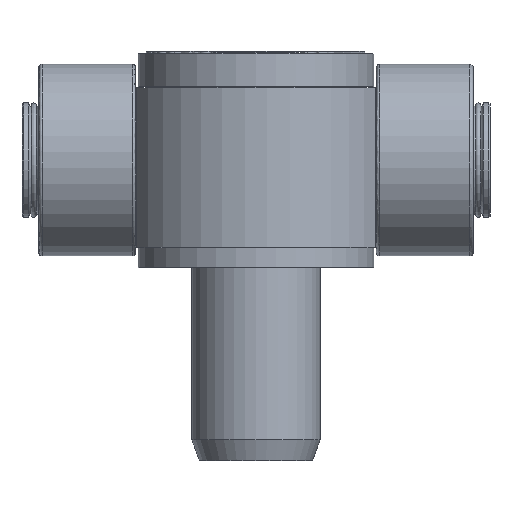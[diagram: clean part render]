
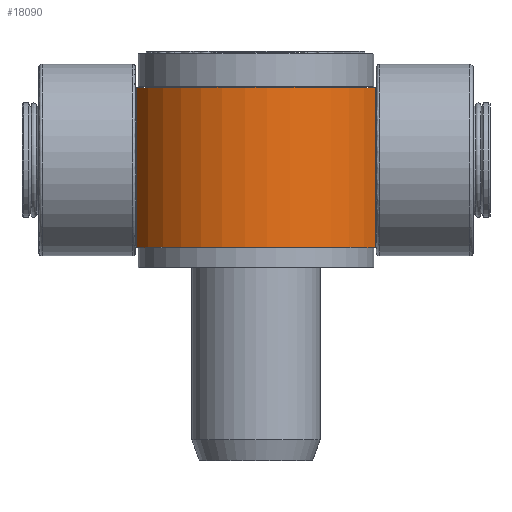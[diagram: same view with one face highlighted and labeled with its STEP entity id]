
A CAD part, top view. The second image highlights one B-rep face of the part: STEP entity #18090.
In plain terms, the highlighted cylindrical face has radius 79 mm (diameter 158 mm), a partial arc.
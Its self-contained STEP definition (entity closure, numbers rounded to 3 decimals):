
#2264=CYLINDRICAL_SURFACE('',#19248,79.);
#2356=FACE_OUTER_BOUND('',#3390,.T.);
#3390=EDGE_LOOP('',(#12473,#12474,#12475,#12476));
#4484=LINE('',#23615,#5973);
#4487=LINE('',#23830,#5976);
#5973=VECTOR('',#20156,10.);
#5976=VECTOR('',#20163,10.);
#7473=CIRCLE('',#19240,79.);
#7477=CIRCLE('',#19246,79.);
#7688=VERTEX_POINT('',#23609);
#7690=VERTEX_POINT('',#23613);
#7693=VERTEX_POINT('',#23826);
#7695=VERTEX_POINT('',#23829);
#9580=EDGE_CURVE('',#7688,#7690,#4484,.T.);
#9586=EDGE_CURVE('',#7695,#7693,#4487,.T.);
#9594=EDGE_CURVE('',#7695,#7690,#7473,.T.);
#9599=EDGE_CURVE('',#7688,#7693,#7477,.T.);
#12473=ORIENTED_EDGE('',*,*,#9586,.T.);
#12474=ORIENTED_EDGE('',*,*,#9599,.F.);
#12475=ORIENTED_EDGE('',*,*,#9580,.T.);
#12476=ORIENTED_EDGE('',*,*,#9594,.F.);
#18090=ADVANCED_FACE('',(#2356),#2264,.T.);
#19240=AXIS2_PLACEMENT_3D('',#23845,#20180,#20181);
#19246=AXIS2_PLACEMENT_3D('',#23853,#20193,#20194);
#19248=AXIS2_PLACEMENT_3D('',#23855,#20197,#20198);
#20156=DIRECTION('',(0.,0.,1.));
#20163=DIRECTION('',(0.,0.,-1.));
#20180=DIRECTION('center_axis',(0.,0.,1.));
#20181=DIRECTION('ref_axis',(-1.,0.,0.));
#20193=DIRECTION('center_axis',(0.,0.,-1.));
#20194=DIRECTION('ref_axis',(-1.,0.,0.));
#20197=DIRECTION('center_axis',(0.,0.,1.));
#20198=DIRECTION('ref_axis',(-1.,0.,0.));
#23609=CARTESIAN_POINT('',(-34.641,-71.,0.));
#23613=CARTESIAN_POINT('',(-34.641,-71.,95.));
#23615=CARTESIAN_POINT('',(-34.641,-71.,0.));
#23826=CARTESIAN_POINT('',(-34.641,71.,0.));
#23829=CARTESIAN_POINT('',(-34.641,71.,95.));
#23830=CARTESIAN_POINT('',(-34.641,71.,0.));
#23845=CARTESIAN_POINT('Origin',(0.,0.,95.));
#23853=CARTESIAN_POINT('Origin',(0.,0.,0.));
#23855=CARTESIAN_POINT('Origin',(0.,0.,0.));
